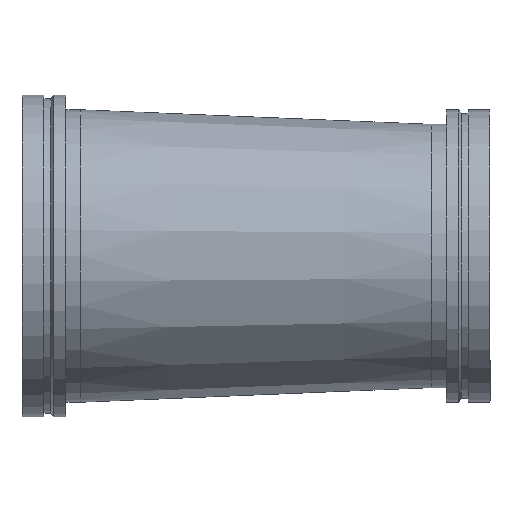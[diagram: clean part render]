
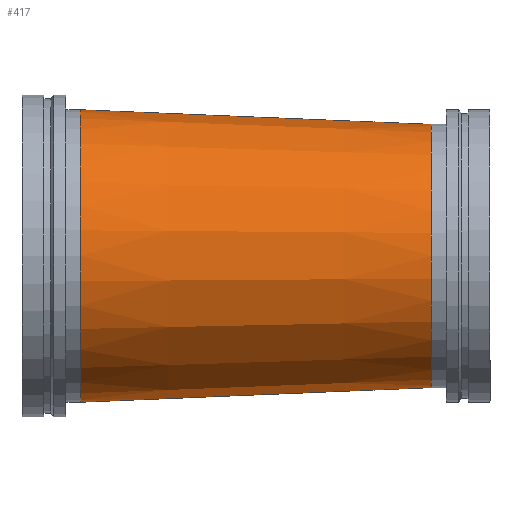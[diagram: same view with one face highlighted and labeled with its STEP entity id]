
A CAD part, top view. The second image highlights one B-rep face of the part: STEP entity #417.
In plain terms, the highlighted conical face has half-angle 2.386 degrees and reference radius 241.3 mm.
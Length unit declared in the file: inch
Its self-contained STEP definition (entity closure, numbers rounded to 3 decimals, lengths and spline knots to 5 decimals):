
#46=CONICAL_SURFACE('',#475,9.5,0.042);
#54=LINE('',#739,#68);
#68=VECTOR('',#587,9.5);
#101=FACE_OUTER_BOUND('',#124,.T.);
#124=EDGE_LOOP('',(#315,#316,#317,#318,#319,#320));
#155=CIRCLE('',#473,10.);
#156=CIRCLE('',#474,10.);
#157=CIRCLE('',#476,9.);
#158=CIRCLE('',#477,9.);
#195=VERTEX_POINT('',#729);
#196=VERTEX_POINT('',#730);
#197=VERTEX_POINT('',#735);
#198=VERTEX_POINT('',#736);
#239=EDGE_CURVE('',#195,#196,#155,.T.);
#240=EDGE_CURVE('',#196,#195,#156,.T.);
#242=EDGE_CURVE('',#197,#198,#157,.T.);
#243=EDGE_CURVE('',#198,#197,#158,.T.);
#244=EDGE_CURVE('',#198,#196,#54,.T.);
#315=ORIENTED_EDGE('',*,*,#242,.F.);
#316=ORIENTED_EDGE('',*,*,#243,.F.);
#317=ORIENTED_EDGE('',*,*,#244,.T.);
#318=ORIENTED_EDGE('',*,*,#240,.T.);
#319=ORIENTED_EDGE('',*,*,#239,.T.);
#320=ORIENTED_EDGE('',*,*,#244,.F.);
#417=ADVANCED_FACE('',(#101),#46,.T.);
#473=AXIS2_PLACEMENT_3D('',#731,#576,#577);
#474=AXIS2_PLACEMENT_3D('',#732,#578,#579);
#475=AXIS2_PLACEMENT_3D('',#734,#581,#582);
#476=AXIS2_PLACEMENT_3D('',#737,#583,#584);
#477=AXIS2_PLACEMENT_3D('',#738,#585,#586);
#576=DIRECTION('center_axis',(1.,0.,0.));
#577=DIRECTION('ref_axis',(0.,0.,-1.));
#578=DIRECTION('center_axis',(1.,0.,0.));
#579=DIRECTION('ref_axis',(0.,0.,-1.));
#581=DIRECTION('center_axis',(-1.,0.,0.));
#582=DIRECTION('ref_axis',(0.,1.,0.));
#583=DIRECTION('center_axis',(1.,0.,0.));
#584=DIRECTION('ref_axis',(0.,0.,-1.));
#585=DIRECTION('center_axis',(1.,0.,0.));
#586=DIRECTION('ref_axis',(0.,0.,-1.));
#587=DIRECTION('',(-0.999,-0.042,0.));
#729=CARTESIAN_POINT('',(4.,10.,0.));
#730=CARTESIAN_POINT('',(4.,-10.,0.));
#731=CARTESIAN_POINT('Origin',(4.,0.,0.));
#732=CARTESIAN_POINT('Origin',(4.,0.,0.));
#734=CARTESIAN_POINT('Origin',(16.,0.,0.));
#735=CARTESIAN_POINT('',(28.,9.,0.));
#736=CARTESIAN_POINT('',(28.,-9.,0.));
#737=CARTESIAN_POINT('Origin',(28.,0.,0.));
#738=CARTESIAN_POINT('Origin',(28.,0.,0.));
#739=CARTESIAN_POINT('',(16.,-9.5,0.));
